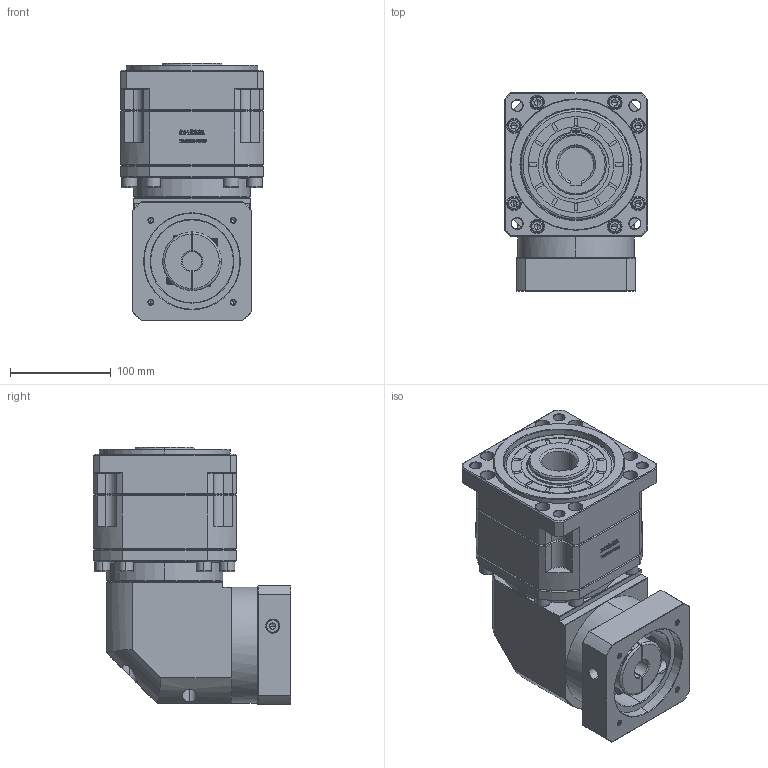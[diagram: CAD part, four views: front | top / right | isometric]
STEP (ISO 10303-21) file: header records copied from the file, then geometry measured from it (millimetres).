
FILE_DESCRIPTION (( 'STEP AP214' ), '1' );
FILE_NAME ('ZBR142A-K35-L2-19-95-115-M6.step', '2023-03-20T04:14:27', ( '' ), ( '' ), 'SwSTEP 2.0', 'SolidWorks 2016', '' );
FILE_SCHEMA (( 'AUTOMOTIVE_DESIGN' ));
Length unit declared in the file: millimetre
Products named in the file (1): ZBR142A-K35-L2-19-95-115-M6
Bounding box: 142 x 195.9 x 255.2 mm (x, y, z)
Volume: 4139078.3 mm3; surface area: 303569.6 mm2
Topology: 6 solids, 6 shells, 3120 faces, 8232 edges, 5278 vertices
Faces by surface type: plane 1644, bspline 589, cylinder 450, cone 393, torus 44
Entity records: 164566 total; most frequent: CARTESIAN_POINT 57480, ORIENTED_EDGE 16360, DIRECTION 12848, EDGE_CURVE 8180, VECTOR 5512, LINE 5512, VERTEX_POINT 5278, AXIS2_PLACEMENT_3D 3668
